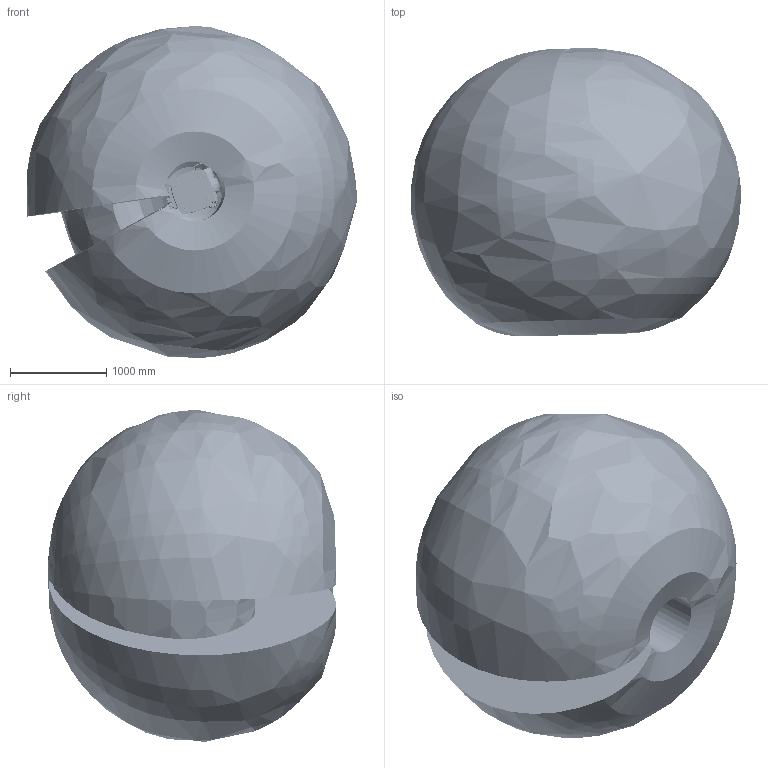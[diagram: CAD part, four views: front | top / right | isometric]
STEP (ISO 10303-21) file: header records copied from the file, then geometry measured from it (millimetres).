
FILE_DESCRIPTION((''),'2;1');
FILE_NAME('ASM0001_ASM','2024-03-22T',('10033976'),(''),'CREO PARAMETRIC BY PTC INC, 2015290','CREO PARAMETRIC BY PTC INC, 2015290','');
FILE_SCHEMA(('CONFIG_CONTROL_DESIGN'));
Products named in the file (28): PRT0001_5_1_1; PRT0001_5_2_1; PRT0001_5_3_1; PRT0001_5_4_1; PRT0001_5_5_1; PRT0001_5_6_1; PRT0001_5_7_1; PRT0001_5_8_1; PRT0001_5_9_1; PRT0001_5_ASM_1_ASM; PRT0003_6_1; PRT0004_4_1_1; PRT0004_4_2_1; PRT0004_4_3_1; PRT0004_4_4_1; PRT0004_4_5_1; PRT0004_4_6_1; PRT0004_4_7_1; PRT0004_4_8_1; PRT0004_4_ASM_1_ASM; PRT0008_13_1; PRT0006_4_1; PRT0007_4_1; PRT0009_5_1; PRT0002_1; 20_3_1; IRB300-20-170TS5_ASM_9_ASM_1_ASM; ASM0001_ASM
Assembly tree (28 placements, depth 4):
  ASM0001_ASM
    IRB300-20-170TS5_ASM_9_ASM_1_ASM
      PRT0001_5_ASM_1_ASM
        PRT0001_5_1_1
        PRT0001_5_2_1
        PRT0001_5_3_1
        PRT0001_5_4_1
        PRT0001_5_5_1
        PRT0001_5_6_1
        PRT0001_5_7_1
        PRT0001_5_8_1
        PRT0001_5_9_1
      PRT0003_6_1
      PRT0004_4_ASM_1_ASM
        PRT0004_4_1_1
        PRT0004_4_2_1
        PRT0004_4_3_1
        PRT0004_4_4_1
        PRT0004_4_5_1
        PRT0004_4_6_1
        PRT0004_4_7_1
        PRT0004_4_8_1
      PRT0008_13_1
      PRT0006_4_1
      PRT0007_4_1
      PRT0009_5_1  x2
      PRT0002_1
      20_3_1
Bounding box: 3430.25 x 2985.42 x 3441.83 mm (x, y, z)
Volume: 18444516272.9 mm3; surface area: 47373161 mm2
Topology: 34 solids, 61 shells, 11288 faces, 29597 edges, 18431 vertices
Faces by surface type: plane 4053, cylinder 3459, bspline 1346, torus 1276, cone 599, sphere 430, extrusion 121, revolution 4
Entity records: 449625 total; most frequent: CARTESIAN_POINT 187801, ORIENTED_EDGE 56392, DIRECTION 52636, EDGE_CURVE 28196, AXIS2_PLACEMENT_3D 20442, VERTEX_POINT 17993, EDGE_LOOP 11983, VECTOR 11748
